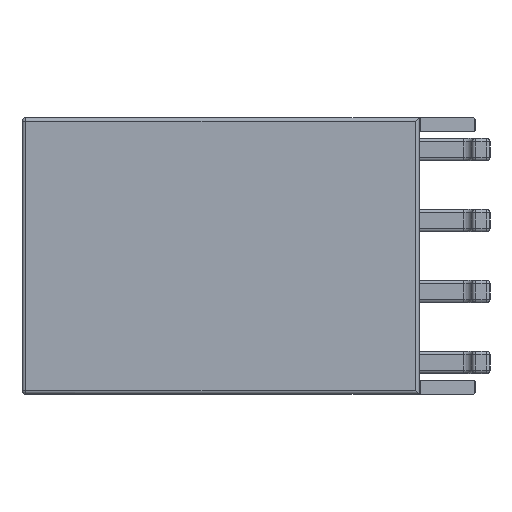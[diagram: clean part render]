
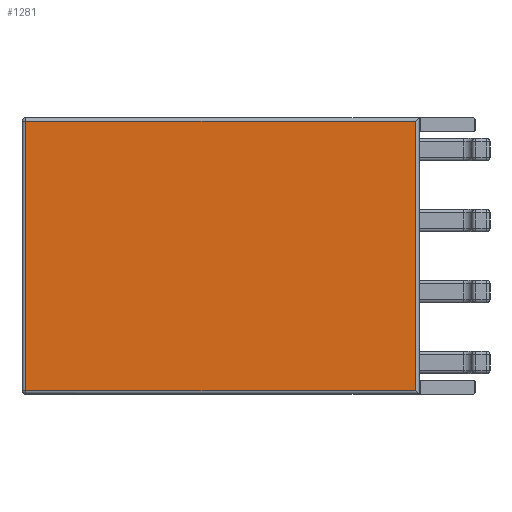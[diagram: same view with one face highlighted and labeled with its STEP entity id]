
A CAD part, left-side view. The second image highlights one B-rep face of the part: STEP entity #1281.
In plain terms, the highlighted planar face has unit normal (-1, 0, 0).
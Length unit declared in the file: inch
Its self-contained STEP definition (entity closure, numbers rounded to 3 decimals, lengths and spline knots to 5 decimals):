
#1281 = ADVANCED_FACE ( 'NONE', ( #4338 ), #4337, .T. ) ;
#1282 = ORIENTED_EDGE ( 'NONE', *, *, #1283, .T. ) ;
#1283 = EDGE_CURVE ( 'NONE', #1284, #1285, #4395, .T. ) ;
#1284 = VERTEX_POINT ( 'NONE', #4391 ) ;
#1285 = VERTEX_POINT ( 'NONE', #4390 ) ;
#1286 = ORIENTED_EDGE ( 'NONE', *, *, #1334, .T. ) ;
#1297 = EDGE_LOOP ( 'NONE', ( #1282, #1286, #1336, #1339 ) ) ;
#1321 = EDGE_CURVE ( 'NONE', #1338, #1284, #4405, .T. ) ;
#1334 = EDGE_CURVE ( 'NONE', #1285, #1335, #4448, .T. ) ;
#1335 = VERTEX_POINT ( 'NONE', #4444 ) ;
#1336 = ORIENTED_EDGE ( 'NONE', *, *, #1337, .T. ) ;
#1337 = EDGE_CURVE ( 'NONE', #1335, #1338, #4443, .T. ) ;
#1338 = VERTEX_POINT ( 'NONE', #4439 ) ;
#1339 = ORIENTED_EDGE ( 'NONE', *, *, #1321, .T. ) ;
#4335 = AXIS2_PLACEMENT_3D ( 'NONE', #4398, #4397, #4396 ) ;
#4337 = PLANE ( 'NONE',  #4335 ) ;
#4338 = FACE_OUTER_BOUND ( 'NONE', #1297, .T. ) ;
#4390 = CARTESIAN_POINT ( 'NONE',  ( -0.30017, 0.2185, -0.07478 ) ) ;
#4391 = CARTESIAN_POINT ( 'NONE',  ( -0.30017, 0.2185, 0.07478 ) ) ;
#4392 = DIRECTION ( 'NONE',  ( 0., 0., -1. ) ) ;
#4393 = VECTOR ( 'NONE', #4392, 39.37008 ) ;
#4394 = CARTESIAN_POINT ( 'NONE',  ( -0.30017, 0.2185, -0.07674 ) ) ;
#4395 = LINE ( 'NONE', #4394, #4393 ) ;
#4396 = DIRECTION ( 'NONE',  ( 0., -1., 0. ) ) ;
#4397 = DIRECTION ( 'NONE',  ( -1., 0., 0. ) ) ;
#4398 = CARTESIAN_POINT ( 'NONE',  ( -0.3002, 0., 0.07677 ) ) ;
#4402 = DIRECTION ( 'NONE',  ( 0., 1., 0. ) ) ;
#4403 = VECTOR ( 'NONE', #4402, 39.37008 ) ;
#4404 = CARTESIAN_POINT ( 'NONE',  ( -0.3002, 0., 0.0748 ) ) ;
#4405 = LINE ( 'NONE', #4404, #4403 ) ;
#4439 = CARTESIAN_POINT ( 'NONE',  ( -0.3002, 0.00197, 0.0748 ) ) ;
#4440 = DIRECTION ( 'NONE',  ( 0., 0., 1. ) ) ;
#4441 = VECTOR ( 'NONE', #4440, 39.37008 ) ;
#4442 = CARTESIAN_POINT ( 'NONE',  ( -0.3002, 0.00197, 0.07677 ) ) ;
#4443 = LINE ( 'NONE', #4442, #4441 ) ;
#4444 = CARTESIAN_POINT ( 'NONE',  ( -0.3002, 0.00197, -0.0748 ) ) ;
#4445 = DIRECTION ( 'NONE',  ( 0., -1., 0. ) ) ;
#4446 = VECTOR ( 'NONE', #4445, 39.37008 ) ;
#4447 = CARTESIAN_POINT ( 'NONE',  ( -0.3002, 0.00002, -0.0748 ) ) ;
#4448 = LINE ( 'NONE', #4447, #4446 ) ;
